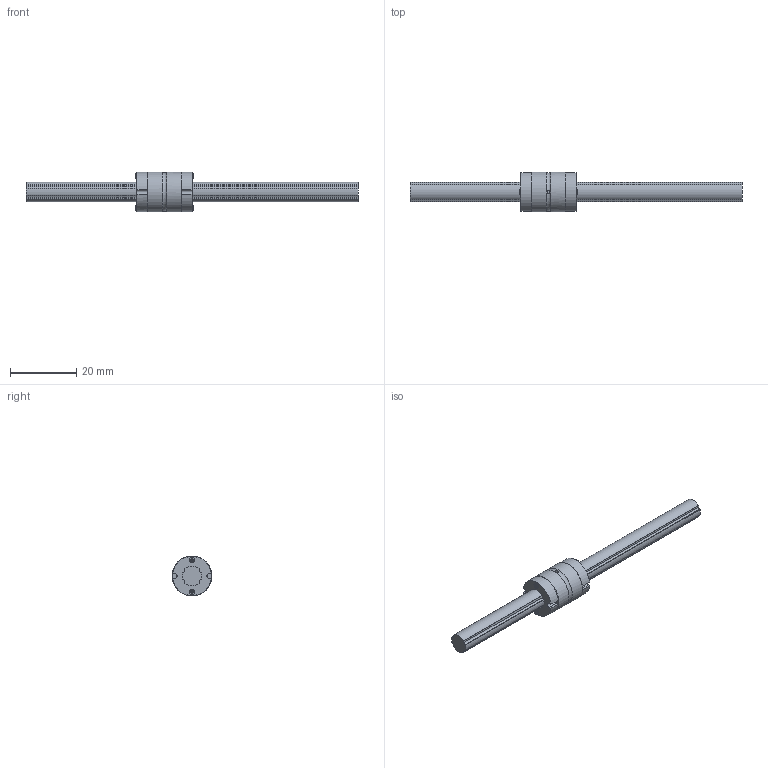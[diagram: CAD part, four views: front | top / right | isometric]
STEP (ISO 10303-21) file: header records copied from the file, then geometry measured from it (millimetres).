
FILE_DESCRIPTION(/* description */ ('STEP AP214'),/* implementation_level */ '2;1');
FILE_NAME(/* name */ 'LT6X+100L(00)',/* time_stamp */ '2024-09-05T14:12:52+02:00',/* author */ ('License CC BY-ND 4.0'),/* organization */ ('CADENAS'),/* preprocessor_version */ 'ST-DEVELOPER v19.3',/* originating_system */ 'PARTsolutions',/* authorisation */ ' ');
FILE_SCHEMA (('AUTOMOTIVE_DESIGN {1 0 10303 214 3 1 1}'));
Length unit declared in the file: millimetre
Products named in the file (3): LT6X+100L(00); 1LT6X 100Shaft; 1LT6X Cylindar
Assembly tree (2 placements, depth 2):
  LT6X+100L(00)
    1LT6X 100Shaft
    1LT6X Cylindar
Bounding box: 100 x 12 x 12 mm (x, y, z)
Volume: 4083.6 mm3; surface area: 3157 mm2
Topology: 2 solids, 2 shells, 136 faces, 366 edges, 242 vertices
Faces by surface type: plane 83, cylinder 50, cone 2, torus 1
Full cylindrical faces by diameter (mm): 1 x2, 1.6 x4, 12 x2
Entity records: 4269 total; most frequent: CARTESIAN_POINT 781, DIRECTION 716, ORIENTED_EDGE 696, EDGE_CURVE 348, LINE 242, VECTOR 242, AXIS2_PLACEMENT_3D 237, VERTEX_POINT 234
